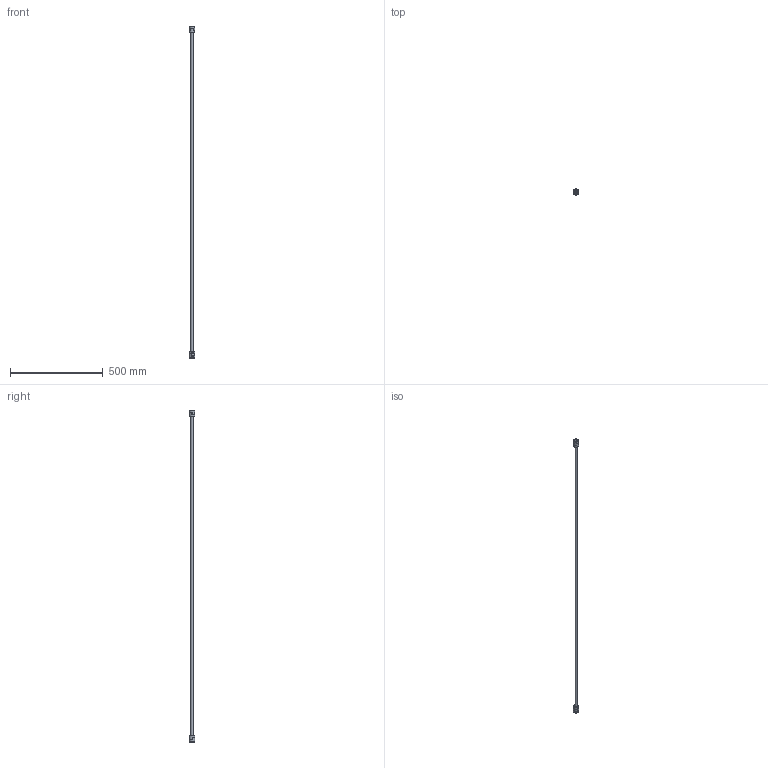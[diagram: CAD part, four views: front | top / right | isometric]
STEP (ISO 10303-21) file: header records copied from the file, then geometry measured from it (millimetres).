
FILE_DESCRIPTION(/* description */ ('STEP AP214'),/* implementation_level */ '2;1');
FILE_NAME(/* name */ 'OSL 14 MTJ65 LM 1900 F16C F16C',/* time_stamp */ '2026-06-01T14:01:44+02:00',/* author */ ('License CC BY-ND 4.0'),/* organization */ ('CADENAS'),/* preprocessor_version */ 'ST-DEVELOPER v20',/* originating_system */ 'PARTsolutions',/* authorisation */ ' ');
FILE_SCHEMA (('AUTOMOTIVE_DESIGN {1 0 10303 214 3 1 1}'));
Length unit declared in the file: millimetre
Products named in the file (6): OSL 14 MTJ65 LM 1900 F16C F16C; MTJ65OSL14F16C-EH-DS; OSL14-S; OSL14-IH; MTJ651419001792-T; MTJ65OSL14F16C-EH-DRS
Assembly tree (7 placements, depth 2):
  OSL 14 MTJ65 LM 1900 F16C F16C
    MTJ65OSL14F16C-EH-DS
    OSL14-S  x2
    OSL14-IH  x2
    MTJ651419001792-T
    MTJ65OSL14F16C-EH-DRS
Bounding box: 30 x 30.17 x 1792 mm (x, y, z)
Volume: 166104.1 mm3; surface area: 152410.4 mm2
Topology: 7 solids, 7 shells, 262 faces, 662 edges, 442 vertices
Faces by surface type: plane 118, cylinder 108, torus 28, cone 8
Full cylindrical faces by diameter (mm): 2.5 x12, 3 x8, 5.5 x4, 10 x1, 13.5 x2, 14 x1
Entity records: 6604 total; most frequent: CARTESIAN_POINT 1134, DIRECTION 971, ORIENTED_EDGE 852, EDGE_CURVE 426, AXIS2_PLACEMENT_3D 399, VERTEX_POINT 298, EDGE_LOOP 232, FACE_BOUND 232
